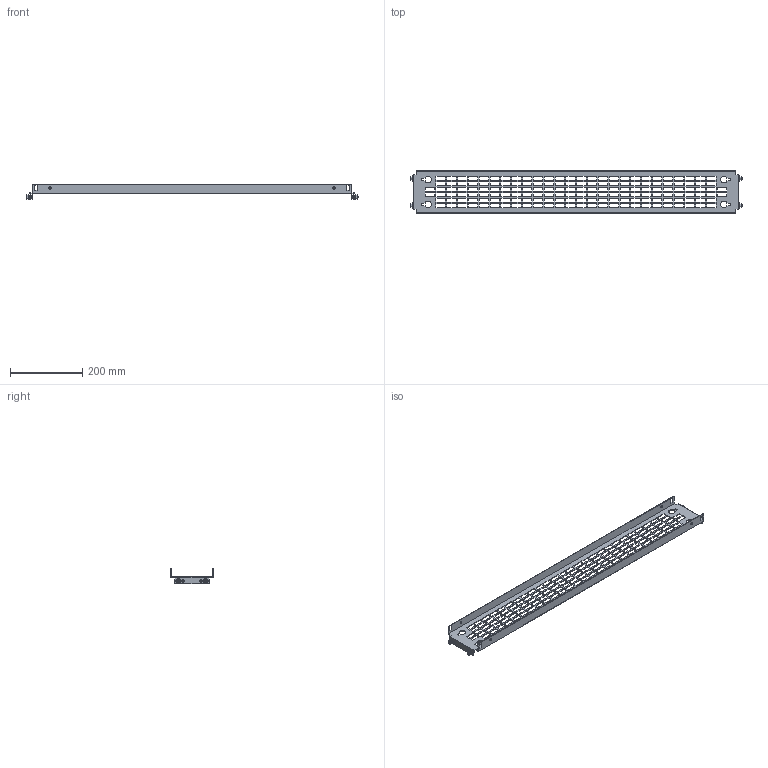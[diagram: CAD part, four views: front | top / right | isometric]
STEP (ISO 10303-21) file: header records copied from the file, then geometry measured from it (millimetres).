
FILE_DESCRIPTION(('Open CASCADE Model'),'2;1');
FILE_NAME('Open CASCADE Shape Model','2025-02-19T16:48:13',('Author'),( 'Open CASCADE'),'Open CASCADE STEP processor 7.8','Open CASCADE 7.8' ,'Unknown');
FILE_SCHEMA(('AUTOMOTIVE_DESIGN { 1 0 10303 214 1 1 1 1 }'));
Length unit declared in the file: millimetre
Products named in the file (4): Compound1; Solid1; Solid2; Solid3
Assembly tree (9 placements, depth 2):
  Compound1
    Solid1
    Solid2  x4
    Solid3  x4
Bounding box: 920 x 119 x 43 mm (x, y, z)
Volume: 214934.2 mm3; surface area: 243657.8 mm2
Topology: 9 solids, 9 shells, 930 faces, 2618 edges, 1710 vertices
Faces by surface type: plane 774, cone 68, bspline 48, cylinder 28, torus 12
Full cylindrical faces by diameter (mm): 5 x4, 6 x8, 7 x12
Entity records: 26464 total; most frequent: CARTESIAN_POINT 5167, ORIENTED_EDGE 4558, DIRECTION 3808, EDGE_CURVE 2279, LINE 2128, VECTOR 2128, VERTEX_POINT 1512, FACE_BOUND 1137
